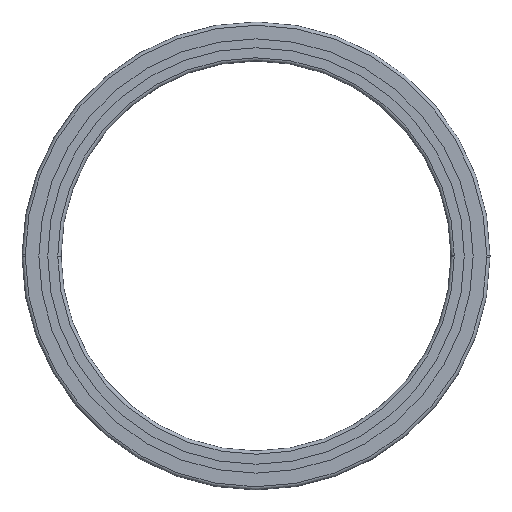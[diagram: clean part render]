
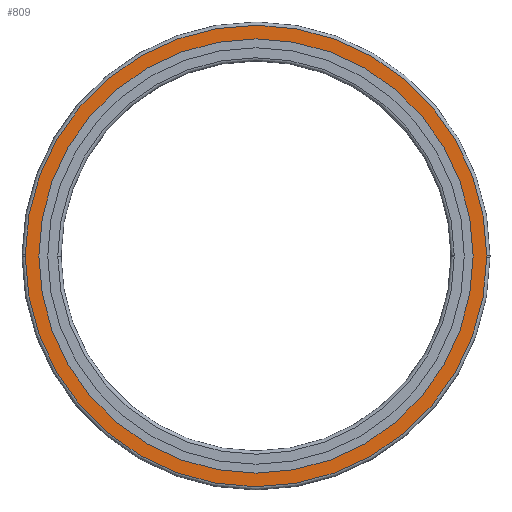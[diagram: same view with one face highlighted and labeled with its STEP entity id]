
A CAD part, front view. The second image highlights one B-rep face of the part: STEP entity #809.
In plain terms, the highlighted planar face has unit normal (0, -1, 0).
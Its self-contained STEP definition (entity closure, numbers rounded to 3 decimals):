
#389=VERTEX_POINT('',#936);
#393=VERTEX_POINT('',#940);
#411=EDGE_CURVE('',#505,#393,#961,.T.);
#459=EDGE_CURVE('',#513,#473,#1014,.T.);
#473=VERTEX_POINT('',#1032);
#505=VERTEX_POINT('',#1067);
#513=VERTEX_POINT('',#1075);
#593=VERTEX_POINT('',#1164);
#641=EDGE_CURVE('',#389,#593,#1219,.T.);
#691=EDGE_CURVE('',#593,#389,#1278,.T.);
#727=EDGE_CURVE('',#393,#513,#1318,.T.);
#749=EDGE_CURVE('',#473,#505,#1343,.T.);
#809=ADVANCED_FACE('',(#1409,#1410),#1411,.F.);
#936=CARTESIAN_POINT('',(167.0,0.0,0.));
#940=CARTESIAN_POINT('',(177.5,0.0,0.0));
#961=CIRCLE('',#1584,177.5);
#1014=CIRCLE('',#1655,177.5);
#1032=CARTESIAN_POINT('',(-177.5,0.0,0.));
#1067=CARTESIAN_POINT('',(177.497,0.0,-1.097));
#1075=CARTESIAN_POINT('',(-177.497,0.0,1.097));
#1164=CARTESIAN_POINT('',(-167.0,0.0,0.0));
#1219=CIRCLE('',#1904,167.0);
#1278=CIRCLE('',#1978,167.0);
#1318=CIRCLE('',#2029,177.5);
#1343=CIRCLE('',#2058,177.5);
#1409=FACE_OUTER_BOUND('',#2139,.T.);
#1410=FACE_BOUND('',#2140,.T.);
#1411=PLANE('',#2141);
#1584=AXIS2_PLACEMENT_3D('',#2318,#2319,#2320);
#1655=AXIS2_PLACEMENT_3D('',#2391,#2392,#2393);
#1904=AXIS2_PLACEMENT_3D('',#2659,#2660,#2661);
#1978=AXIS2_PLACEMENT_3D('',#2747,#2748,#2749);
#2029=AXIS2_PLACEMENT_3D('',#2801,#2802,#2803);
#2058=AXIS2_PLACEMENT_3D('',#2841,#2842,#2843);
#2139=EDGE_LOOP('',(#2919,#2920,#2921,#2922));
#2140=EDGE_LOOP('',(#2923,#2924));
#2141=AXIS2_PLACEMENT_3D('',#2925,#2926,#2927);
#2318=CARTESIAN_POINT('',(0.0,0.0,0.0));
#2319=DIRECTION('',(0.0,-1.0,0.0));
#2320=DIRECTION('',(-1.0,0.0,0.0));
#2391=CARTESIAN_POINT('',(0.0,0.0,0.0));
#2392=DIRECTION('',(0.0,-1.0,0.0));
#2393=DIRECTION('',(1.0,0.0,0.0));
#2659=CARTESIAN_POINT('',(0.0,0.0,0.0));
#2660=DIRECTION('',(0.0,-1.0,0.0));
#2661=DIRECTION('',(1.0,0.0,0.0));
#2747=CARTESIAN_POINT('',(0.0,0.0,0.0));
#2748=DIRECTION('',(0.0,-1.0,0.0));
#2749=DIRECTION('',(-1.0,0.0,0.0));
#2801=CARTESIAN_POINT('',(0.0,0.0,0.0));
#2802=DIRECTION('',(0.0,-1.0,0.0));
#2803=DIRECTION('',(1.0,0.0,0.0));
#2841=CARTESIAN_POINT('',(0.0,0.0,0.0));
#2842=DIRECTION('',(0.0,-1.0,0.0));
#2843=DIRECTION('',(-1.0,0.0,0.0));
#2919=ORIENTED_EDGE('',*,*,#727,.T.);
#2920=ORIENTED_EDGE('',*,*,#459,.T.);
#2921=ORIENTED_EDGE('',*,*,#749,.T.);
#2922=ORIENTED_EDGE('',*,*,#411,.T.);
#2923=ORIENTED_EDGE('',*,*,#691,.F.);
#2924=ORIENTED_EDGE('',*,*,#641,.F.);
#2925=CARTESIAN_POINT('',(0.0,0.0,0.0));
#2926=DIRECTION('',(0.0,1.0,0.0));
#2927=DIRECTION('',(1.0,0.0,-0.0));
